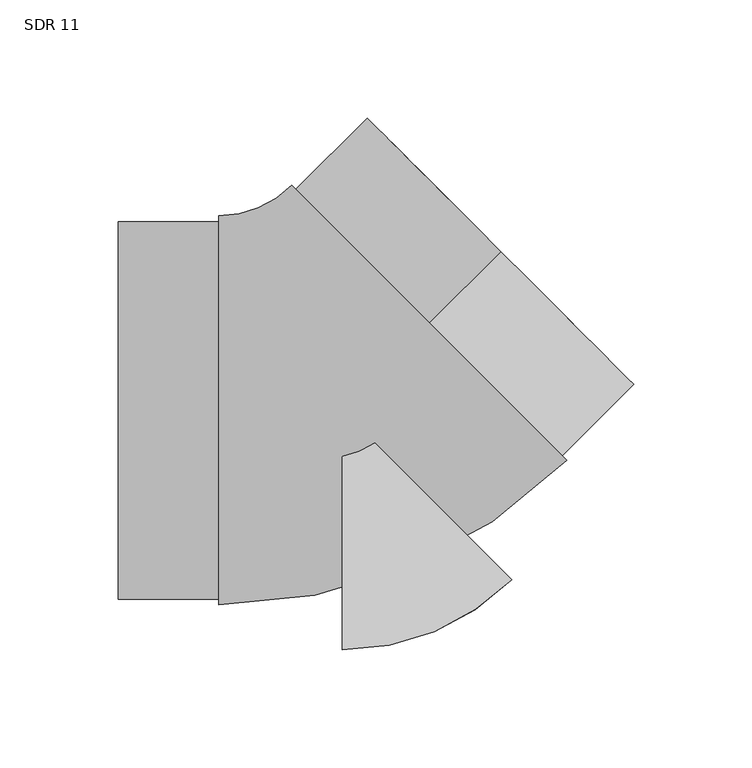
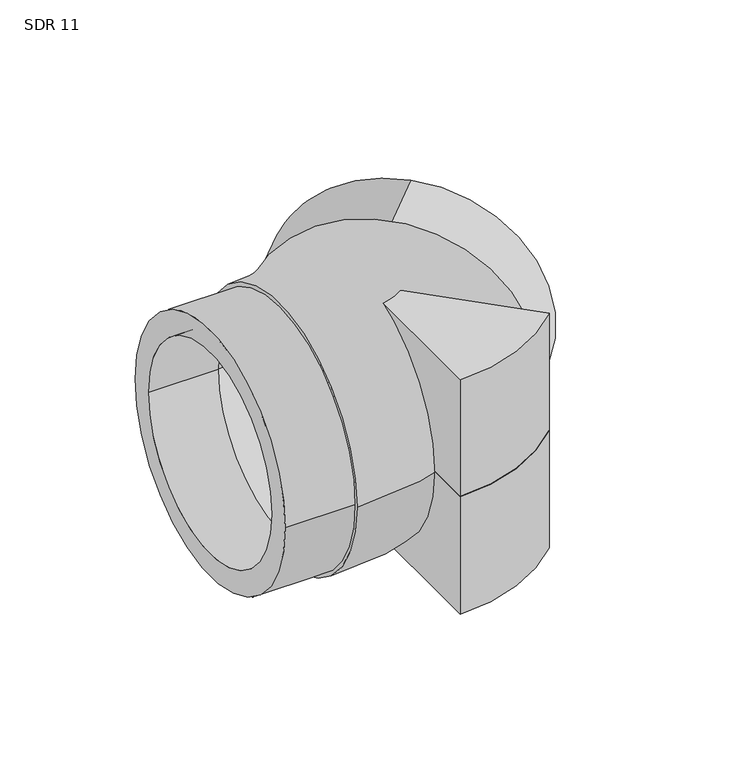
"""IFC4 building model written with IfcOpenShell, lengths in millimetres: pipe fitting geometry, Aquatherm - Elbow BW Molded : SDR 11."""

import ifcopenshell
import ifcopenshell.guid

model = None  # the IFC model being written
_history = None  # IfcOwnerHistory: only IFC2X3 demands one
_inside = {}  # id of a spatial element -> (the spatial element, [elements in it])
_under = {}  # id of a project, library or spatial element -> (it, [spatial elements below it])
_declared = {}  # id of a project -> (the project, [libraries it declares])
_typed = {}  # id of a type object -> (the type object, [elements of that type])
_made_of = {}  # id of a material, layer set ... -> (it, [elements and type objects made of it])


def new_model(schema):
    """Start an empty IFC model of exactly this schema.

    Asked for "IFC4X3", IfcOpenShell would pick the latest addendum, in which some entities
    have other attributes; the version numbers below select the first issue.
    IFC2X3 requires an IfcOwnerHistory on every rooted entity: one is made here for all.
    """
    global model, _history
    if schema == "IFC4X3":
        model = ifcopenshell.file(schema_version=(4, 3, 0, 0))
    else:
        model = ifcopenshell.file(schema=schema)
    _inside.clear()
    _under.clear()
    _declared.clear()
    _typed.clear()
    _made_of.clear()
    _history = None
    if model.schema == "IFC2X3":
        org = make("IfcOrganization", Name="unknown")
        user = make(
            "IfcPersonAndOrganization",
            ThePerson=make("IfcPerson", FamilyName="unknown"),
            TheOrganization=org,
        )
        app = make(
            "IfcApplication",
            ApplicationDeveloper=org,
            Version="unknown",
            ApplicationFullName="unknown",
            ApplicationIdentifier="unknown",
        )
        _history = make(
            "IfcOwnerHistory",
            OwningUser=user,
            OwningApplication=app,
            ChangeAction="ADDED",
            CreationDate=0,
        )
    return model


def make(cls, **values):
    """One entity of the class cls with the attributes given. An attribute that is None is left unset."""
    return model.create_entity(
        cls, **{name: value for name, value in values.items() if value is not None}
    )


def rooted(cls, **values):
    """An entity with a GlobalId (a new one), such as an element, a storey or a relation."""
    return make(cls, GlobalId=ifcopenshell.guid.new(), OwnerHistory=_history, **values)


def si_unit(unit_type, name, prefix=None):
    """IfcSIUnit, for example si_unit("LENGTHUNIT", "METRE", prefix="MILLI")."""
    return make("IfcSIUnit", UnitType=unit_type, Prefix=prefix, Name=name)


def assignment(units):
    """IfcUnitAssignment: the units of a project."""
    return None if units is None else make("IfcUnitAssignment", Units=units)


def point(xyz):
    """IfcCartesianPoint."""
    return None if xyz is None else make("IfcCartesianPoint", Coordinates=xyz)


def direction(xyz):
    """IfcDirection."""
    return None if xyz is None else make("IfcDirection", DirectionRatios=xyz)


def frame(location, z_axis=None, x_axis=None):
    """IfcAxis2Placement3D, a coordinate frame: its origin and axes. An axis left out is left unset."""
    return make(
        "IfcAxis2Placement3D",
        Location=point(location),
        Axis=direction(z_axis),
        RefDirection=direction(x_axis),
    )


def frame_2d(location, x_axis=None):
    """IfcAxis2Placement2D, a coordinate frame in the plane: its origin and x axis."""
    return make(
        "IfcAxis2Placement2D", Location=point(location), RefDirection=direction(x_axis)
    )


def origin():
    """The frame at (0, 0, 0) with its axes left unset."""
    return frame((0.0, 0.0, 0.0))


def origin_with_axes():
    """The frame at (0, 0, 0) with the z axis (0, 0, 1) and the x axis (1, 0, 0) written out."""
    return frame((0.0, 0.0, 0.0), z_axis=(0.0, 0.0, 1.0), x_axis=(1.0, 0.0, 0.0))


def origin_2d():
    """The frame at (0, 0) in the plane with its x axis left unset."""
    return frame_2d((0.0, 0.0))


def place(relative_to, where):
    """IfcLocalPlacement: puts the frame where relative to a parent placement (None: the world)."""
    return make(
        "IfcLocalPlacement", PlacementRelTo=relative_to, RelativePlacement=where
    )


def context(
    kind, dimensions, precision=None, world=None, true_north=None, identifier=None
):
    """IfcGeometricRepresentationContext, for example the 3D "Model" context."""
    return make(
        "IfcGeometricRepresentationContext",
        ContextIdentifier=identifier,
        ContextType=kind,
        CoordinateSpaceDimension=dimensions,
        Precision=precision,
        WorldCoordinateSystem=world,
        TrueNorth=true_north,
    )


def project(units=None, contexts=None):
    """IfcProject with its units and contexts."""
    return rooted(
        "IfcProject",
        Name="project",
        RepresentationContexts=contexts,
        UnitsInContext=assignment(units),
    )


def spatial(cls, under=None, at=None, **own):
    """A site, building, storey or space (cls), placed at a placement, below another one or the project."""
    s = rooted(cls, ObjectPlacement=at, **own)
    if under is not None:
        _under.setdefault(under.id(), (under, []))[1].append(s)
    return s


def polyline(points):
    """IfcPolyline through the points."""
    return make("IfcPolyline", Points=[point(p) for p in points])


def circle_curve(where, radius):
    """IfcCircle in the frame where."""
    return make("IfcCircle", Position=where, Radius=radius)


def ellipse_curve(where, semi_axis1, semi_axis2):
    """IfcEllipse in the frame where."""
    return make(
        "IfcEllipse", Position=where, SemiAxis1=semi_axis1, SemiAxis2=semi_axis2
    )


def trimmed(basis, trim1, trim2, sense, master):
    """IfcTrimmedCurve: the piece of a basis curve between two trims."""
    return make(
        "IfcTrimmedCurve",
        BasisCurve=basis,
        Trim1=trim1,
        Trim2=trim2,
        SenseAgreement=sense,
        MasterRepresentation=master,
    )


def segment(curve, same_sense, transition):
    """IfcCompositeCurveSegment."""
    return make(
        "IfcCompositeCurveSegment",
        Transition=transition,
        SameSense=same_sense,
        ParentCurve=curve,
    )


def composite_curve(segments, self_intersect=None):
    """IfcCompositeCurve: segments joined end to end."""
    return make("IfcCompositeCurve", Segments=segments, SelfIntersect=self_intersect)


def outline(outer, holes=None, kind="AREA"):
    """IfcArbitraryClosedProfileDef: a profile drawn as a closed curve; with holes, ...WithVoids."""
    if holes is None:
        return make("IfcArbitraryClosedProfileDef", ProfileType=kind, OuterCurve=outer)
    return make(
        "IfcArbitraryProfileDefWithVoids",
        ProfileType=kind,
        OuterCurve=outer,
        InnerCurves=holes,
    )


def extrude(swept, where, along, depth):
    """IfcExtrudedAreaSolid: the profile swept, set in the frame where, extruded along a direction by depth."""
    return make(
        "IfcExtrudedAreaSolid",
        SweptArea=swept,
        Position=where,
        ExtrudedDirection=direction(along),
        Depth=depth,
    )


def shape(context_of_items, identifier, shape_type, items):
    """IfcShapeRepresentation: the items that make up one representation, for example the "Body"."""
    return make(
        "IfcShapeRepresentation",
        ContextOfItems=context_of_items,
        RepresentationIdentifier=identifier,
        RepresentationType=shape_type,
        Items=items,
    )


def source(mapping_origin, context_of_items, identifier, shape_type, items):
    """IfcRepresentationMap: a shape defined once, which mapped items show again and again."""
    return make(
        "IfcRepresentationMap",
        MappingOrigin=mapping_origin,
        MappedRepresentation=shape(context_of_items, identifier, shape_type, items),
    )


def transform(
    local_origin,
    x_axis=None,
    y_axis=None,
    z_axis=None,
    scale=None,
    scale2=None,
    scale3=None,
    uniform=True,
):
    """IfcCartesianTransformationOperator3D, or its non-uniform kind. x_axis, y_axis, z_axis: its Axis1, 2, 3."""
    if uniform:
        return make(
            "IfcCartesianTransformationOperator3D",
            Axis1=direction(x_axis),
            Axis2=direction(y_axis),
            LocalOrigin=point(local_origin),
            Scale=scale,
            Axis3=direction(z_axis),
        )
    return make(
        "IfcCartesianTransformationOperator3DnonUniform",
        Axis1=direction(x_axis),
        Axis2=direction(y_axis),
        LocalOrigin=point(local_origin),
        Scale=scale,
        Axis3=direction(z_axis),
        Scale2=scale2,
        Scale3=scale3,
    )


def mapped(mapping_source, mapping_target):
    """IfcMappedItem: shows the shape of a source again, moved by a transform."""
    return make(
        "IfcMappedItem", MappingSource=mapping_source, MappingTarget=mapping_target
    )


def made_of(thing, what):
    """Note that an element or type object is made of a material, layer set ...; save() writes the relation."""
    if what is not None:
        _made_of.setdefault(what.id(), (what, []))[1].append(thing)
    return thing


def element(
    cls,
    number,
    at=None,
    inside=None,
    cuts=None,
    type_object=None,
    material=None,
    context=None,
    identifier="Body",
    shape_type=None,
    held_by="IfcProductDefinitionShape",
    body=None,
    shapes=None,
    **own,
):
    """One element of the class cls, such as IfcWall. Its Tag is "e" and its number.

    at: its placement. inside: the storey or other place that contains it. cuts: it is an
    opening in that element (IfcRelVoidsElement). A single representation is given by context,
    identifier, shape_type and body (its items); several are given by shapes. held_by: the class
    of the entity that holds the representations. save() writes the other relations.
    """
    e = rooted(cls, Tag="e%d" % number, ObjectPlacement=at, **own)
    if body is not None:
        shapes = [shape(context, identifier, shape_type, body)]
    if shapes is not None:
        e.Representation = make(held_by, Representations=shapes)
    if inside is not None:
        _inside.setdefault(inside.id(), (inside, []))[1].append(e)
    if cuts is not None:
        rooted(
            "IfcRelVoidsElement", RelatingBuildingElement=cuts, RelatedOpeningElement=e
        )
    if type_object is not None:
        _typed.setdefault(type_object.id(), (type_object, []))[1].append(e)
    return made_of(e, material)


def aggregate(whole, parts):
    """IfcRelAggregates: a whole, such as a stair, and the parts it consists of."""
    return rooted("IfcRelAggregates", RelatingObject=whole, RelatedObjects=parts)


def save(model, path):
    """Write the relations noted so far, then the file.

    IfcRelAggregates (storeys below a building ...), IfcRelContainedInSpatialStructure (elements
    in a storey), IfcRelDefinesByType, IfcRelAssociatesMaterial and IfcRelDeclares: one each for
    every whole, place, type object, material and project.
    """
    for whole, parts in _under.values():
        aggregate(whole, parts)
    for where, things in _inside.values():
        rooted(
            "IfcRelContainedInSpatialStructure",
            RelatedElements=things,
            RelatingStructure=where,
        )
    for kind, things in _typed.values():
        rooted("IfcRelDefinesByType", RelatedObjects=things, RelatingType=kind)
    for what, things in _made_of.values():
        rooted("IfcRelAssociatesMaterial", RelatedObjects=things, RelatingMaterial=what)
    for by, libraries in _declared.values():
        rooted("IfcRelDeclares", RelatingContext=by, RelatedDefinitions=libraries)
    model.write(path)


def plane_surface(at):
    """IfcPlane: the flat surface through the origin of the frame at, square to its z axis."""
    return make("IfcPlane", Position=at)


def revolved_surface(curve, axis_point, axis_direction):
    """IfcSurfaceOfRevolution: the curve turned about the line through axis_point along axis_direction."""
    return make(
        "IfcSurfaceOfRevolution",
        SweptCurve=make("IfcArbitraryOpenProfileDef", ProfileType="CURVE", Curve=curve),
        AxisPosition=make("IfcAxis1Placement", Location=point(axis_point), Axis=direction(axis_direction)),
    )


def advanced_brep(points, edges, surfaces, faces):
    """IfcAdvancedBrep: a solid bounded by faces that lie on surfaces and meet in shared edges.

    An edge is (start, end): straight between two places in points (the first is 0);
    or (start, end, curve); or (start, end, curve, False) where it runs against its curve.
    A face is (place in surfaces, loops), or (place, loops, False) where it looks against
    its surface's normal. A loop lists edges by number (the first is 1), with a minus sign
    where the edge is run from its end to its start. The first loop is the outer one.
    """
    corners = [point(p) for p in points]
    vertices = [make("IfcVertexPoint", VertexGeometry=c) for c in corners]
    made = []
    for start, end, *more in edges:
        made.append(
            make(
                "IfcEdgeCurve",
                EdgeStart=vertices[start],
                EdgeEnd=vertices[end],
                EdgeGeometry=more[0] if more else make("IfcPolyline", Points=[corners[start], corners[end]]),
                SameSense=more[1] if len(more) > 1 else True,
            )
        )
    hull = []
    for where, loops, *sense in faces:
        bounds = []
        for j, loop in enumerate(loops):
            ring = [make("IfcOrientedEdge", EdgeElement=made[abs(k) - 1], Orientation=k > 0) for k in loop]
            bounds.append(
                make(
                    "IfcFaceOuterBound" if j == 0 else "IfcFaceBound",
                    Bound=make("IfcEdgeLoop", EdgeList=ring),
                    Orientation=True,
                )
            )
        hull.append(make("IfcAdvancedFace", Bounds=bounds, FaceSurface=surfaces[where], SameSense=sense[0] if sense else True))
    return make("IfcAdvancedBrep", Outer=make("IfcClosedShell", CfsFaces=hull))


def sdr_11_ab3a76d9(model_context):
    return source(origin(), model_context, "Body", "SolidModel", [
        extrude(outline(composite_curve([segment(polyline([(0.0, -101.6), (0.0, 0.0), (71.8455185, -71.8385793)]), True, "CONTINUOUS"), segment(trimmed(circle_curve(origin_2d(), 101.6), [point((71.8455185, -71.8385793))], [point((0.0, -101.6))], False, "CARTESIAN"), True, "CONTINUOUS")], self_intersect=False)), frame((0.0, 0.0, -76.2), z_axis=(0.0, 0.0, 1.0), x_axis=(1.0, 0.0, 0.0)), (0.0, 0.0, 1.0), 76.2),
        extrude(outline(composite_curve([segment(trimmed(circle_curve(origin_2d(), 101.6), [point((71.8455185, -71.8385793))], [point((0.0, -101.6))], False, "CARTESIAN"), True, "CONTINUOUS"), segment(polyline([(0.0, -101.6), (0.0, 0.0), (71.8455185, -71.8385793)]), True, "CONTINUOUS")], self_intersect=False)), origin_with_axes(), (0.0, 0.0, 1.0), 76.2),
        extrude(outline(composite_curve([segment(trimmed(circle_curve(frame_2d((0.0, -80.01)), 80.01), [point((0.0, -160.02))], [point((0.0, 0.0))], False, "CARTESIAN"), True, "CONTINUOUS"), segment(trimmed(circle_curve(frame_2d((0.0, -80.01)), 80.01), [point((0.0, 0.0))], [point((0.0, -160.02))], False, "CARTESIAN"), True, "CONTINUOUS")], self_intersect=False), holes=[composite_curve([segment(trimmed(circle_curve(frame_2d((0.0, -80.01)), 65.4627273), [point((0.0, -145.4727273))], [point((0.0, -14.5472727))], True, "CARTESIAN"), True, "CONTINUOUS"), segment(trimmed(circle_curve(frame_2d((0.0, -80.01)), 65.4627273), [point((0.0, -14.5472727))], [point((0.0, -145.4727273))], True, "CARTESIAN"), True, "CONTINUOUS")], self_intersect=False)]), frame((36.9429894, 36.9465579, 80.01), z_axis=(0.7070726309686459, 0.70714092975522, 0.0), x_axis=(-0.70714092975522, 0.7070726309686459, 0.0)), (0.0, 0.0, 1.0), 42.7482),
        extrude(outline(composite_curve([segment(trimmed(circle_curve(frame_2d((-0.1496481, 0.0)), 80.01), [point((79.8603519, 0.0))], [point((-80.1596481, 0.0))], False, "CARTESIAN"), True, "CONTINUOUS"), segment(trimmed(circle_curve(frame_2d((-0.1496481, 0.0)), 80.01), [point((-80.1596481, 0.0))], [point((79.8603519, 0.0))], False, "CARTESIAN"), True, "CONTINUOUS")], self_intersect=False), holes=[composite_curve([segment(trimmed(circle_curve(origin_2d(), 65.4627273), [point((65.4627273, 0.0))], [point((-65.4627273, 0.0))], True, "CARTESIAN"), True, "CONTINUOUS"), segment(trimmed(circle_curve(origin_2d(), 65.4627273), [point((-65.4627273, 0.0))], [point((65.4627273, 0.0))], True, "CARTESIAN"), True, "CONTINUOUS")], self_intersect=False)]), frame((-94.996, 0.0, 0.0), z_axis=(1.0, 0.0, 0.0), x_axis=(0.0, 1.0, 0.0)), (0.0, 0.0, 1.0), 42.7482),
        advanced_brep(
        [(-52.2478, -82.4103, 0.0), (-52.2478, 82.4103, 0.0), (-52.2478, -65.4627273, 0.0), (-52.2478, 65.4627273, 0.0), (95.2186856, -21.3235098, 0.0), (-21.3327068, 95.2166255, 0.0), (83.2343632, -9.3403449, 0.0), (-9.3483844, 83.2334607, 0.0)],
        [
            (0, 1, circle_curve(frame((-52.2478, 0.0, 0.0), z_axis=(-1.0, 0.0, 0.0), x_axis=(0.0, 1.0, 0.0)), 82.4103)),
            (1, 0, circle_curve(frame((-52.2478, 0.0, 0.0), z_axis=(-1.0, 0.0, 0.0), x_axis=(0.0, 1.0, 0.0)), 82.4103)),
            (2, 3, circle_curve(frame((-52.2478, 0.0, 0.0), z_axis=(1.0, 0.0, 0.0), x_axis=(0.0, 1.0, 0.0)), 65.4627273)),
            (3, 2, circle_curve(frame((-52.2478, 0.0, 0.0), z_axis=(1.0, 0.0, 0.0), x_axis=(0.0, 1.0, 0.0)), 65.4627273)),
            (4, 5, circle_curve(frame((36.9429894, 36.9465579, 0.0), z_axis=(0.707072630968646, 0.7071409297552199, 0.0), x_axis=(-0.7071409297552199, 0.707072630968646, 0.0)), 82.4103)),
            (5, 4, circle_curve(frame((36.9429894, 36.9465579, 0.0), z_axis=(0.707072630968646, 0.7071409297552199, 0.0), x_axis=(-0.7071409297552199, 0.707072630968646, 0.0)), 82.4103)),
            (6, 7, circle_curve(frame((36.9429894, 36.9465579, 0.0), z_axis=(-0.707072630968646, -0.7071409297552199, 0.0), x_axis=(-0.7071409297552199, 0.707072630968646, 0.0)), 65.4627273)),
            (7, 6, circle_curve(frame((36.9429894, 36.9465579, 0.0), z_axis=(-0.707072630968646, -0.7071409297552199, 0.0), x_axis=(-0.7071409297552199, 0.707072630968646, 0.0)), 65.4627273)),
            (5, 1, circle_curve(frame((-52.2478, 126.1287328, 0.0), z_axis=(0.0, 0.0, -1.0), x_axis=(0.0, -1.0, 0.0)), 43.7184328)),
            (0, 4, circle_curve(frame((-52.2478, 126.1287328, 0.0), z_axis=(0.0, 0.0, 1.0), x_axis=(0.0, -1.0, 0.0)), 208.5390328)),
            (7, 3, circle_curve(frame((-52.2478, 126.1287328, 0.0), z_axis=(0.0, 0.0, -1.0), x_axis=(0.0, -1.0, 0.0)), 60.6660056)),
            (2, 6, circle_curve(frame((-52.2478, 126.1287328, 0.0), z_axis=(0.0, 0.0, 1.0), x_axis=(0.0, -1.0, 0.0)), 191.5914601)),
        ],
        [
            plane_surface(frame((-52.2478, 0.0, 0.0), z_axis=(-1.0, 0.0, 0.0), x_axis=(0.0, 0.0, 1.0))),
            plane_surface(frame((36.9429894, 36.9465579, 0.0), z_axis=(0.7070726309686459, 0.70714092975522, 0.0), x_axis=(0.0, 0.0, 1.0))),
            revolved_surface(trimmed(ellipse_curve(frame((-52.2478, 0.0, 0.0), z_axis=(-1.0, 0.0, 0.0), x_axis=(0.0, 1.0, 0.0)), 82.4103, 82.4103), [point((-52.2478, -82.4103, 0.0))], [point((-52.2478, 82.4103, 0.0))], True, "CARTESIAN"), (-52.2478, 126.1287328, 0.0), (0.0, 0.0, 1.0)),
            revolved_surface(trimmed(ellipse_curve(frame((-52.2478, 0.0, 0.0), z_axis=(-1.0, 0.0, 0.0), x_axis=(0.0, 1.0, 0.0)), 82.4103, 82.4103), [point((-52.2478, 82.4103, 0.0))], [point((-52.2478, -82.4103, 0.0))], True, "CARTESIAN"), (-52.2478, 126.1287328, 0.0), (0.0, 0.0, 1.0)),
            revolved_surface(trimmed(ellipse_curve(frame((-52.2478, 0.0, 0.0), z_axis=(1.0, 0.0, 0.0), x_axis=(0.0, 1.0, 0.0)), 65.4627273, 65.4627273), [point((-52.2478, -65.4627273, 0.0))], [point((-52.2478, 65.4627273, 0.0))], True, "CARTESIAN"), (-52.2478, 126.1287328, 0.0), (0.0, 0.0, 1.0)),
            revolved_surface(trimmed(ellipse_curve(frame((-52.2478, 0.0, 0.0), z_axis=(1.0, 0.0, 0.0), x_axis=(0.0, 1.0, 0.0)), 65.4627273, 65.4627273), [point((-52.2478, 65.4627273, 0.0))], [point((-52.2478, -65.4627273, 0.0))], True, "CARTESIAN"), (-52.2478, 126.1287328, 0.0), (0.0, 0.0, 1.0)),
        ],
        [
            (0, [[1, 2], [3, 4]]),
            (1, [[5, 6], [7, 8]]),
            (2, [[9, -1, 10, -6]]),
            (3, [[-10, -2, -9, -5]]),
            (4, [[11, -3, 12, -8]]),
            (5, [[-12, -4, -11, -7]]),
        ],
    ),
    ])


if __name__ == "__main__":
    model = new_model("IFC4")
    model_context = context("Model", 3, world=origin())
    ifc_project = project(units=[si_unit("LENGTHUNIT", "METRE", prefix="MILLI")], contexts=[model_context])
    site = spatial("IfcSite", under=ifc_project)
    building = spatial("IfcBuilding", under=site)
    placement = place(None, origin())
    sdr_11_shape = sdr_11_ab3a76d9(model_context)
    element("IfcPipeFitting", 1, ObjectType="Aquatherm - Elbow BW Molded : SDR 11", at=placement, inside=building, context=model_context, shape_type="MappedRepresentation", body=[
        mapped(sdr_11_shape, transform((0.0, 0.0, 0.0), x_axis=(1.0, 0.0, 0.0), y_axis=(0.0, 1.0, 0.0), z_axis=(0.0, 0.0, 1.0))),
    ])
    save(model, "model.ifc")
